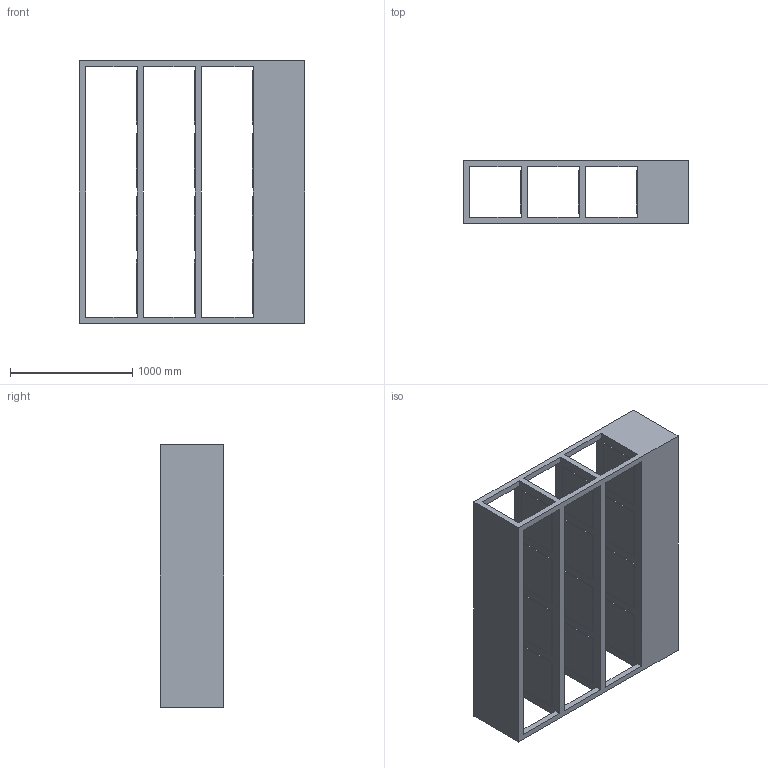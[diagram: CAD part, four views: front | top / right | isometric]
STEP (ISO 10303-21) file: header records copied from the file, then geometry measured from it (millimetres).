
FILE_DESCRIPTION (( 'STEP AP214' ), '1' );
FILE_NAME ('Shelf.STEP', '2024-06-05T07:37:57', ( '' ), ( '' ), 'SwSTEP 2.0', 'SolidWorks 2020', '' );
FILE_SCHEMA (( 'AUTOMOTIVE_DESIGN' ));
Length unit declared in the file: millimetre
Products named in the file (1): Shelf
Bounding box: 1845 x 520 x 2150 mm (x, y, z)
Volume: 668490000 mm3; surface area: 13137400 mm2
Topology: 1 solids, 1 shells, 96 faces, 264 edges, 176 vertices
Faces by surface type: plane 96
Entity records: 3058 total; most frequent: CARTESIAN_POINT 537, ORIENTED_EDGE 528, DIRECTION 458, VECTOR 264, LINE 264, EDGE_CURVE 264, VERTEX_POINT 176, EDGE_LOOP 120
